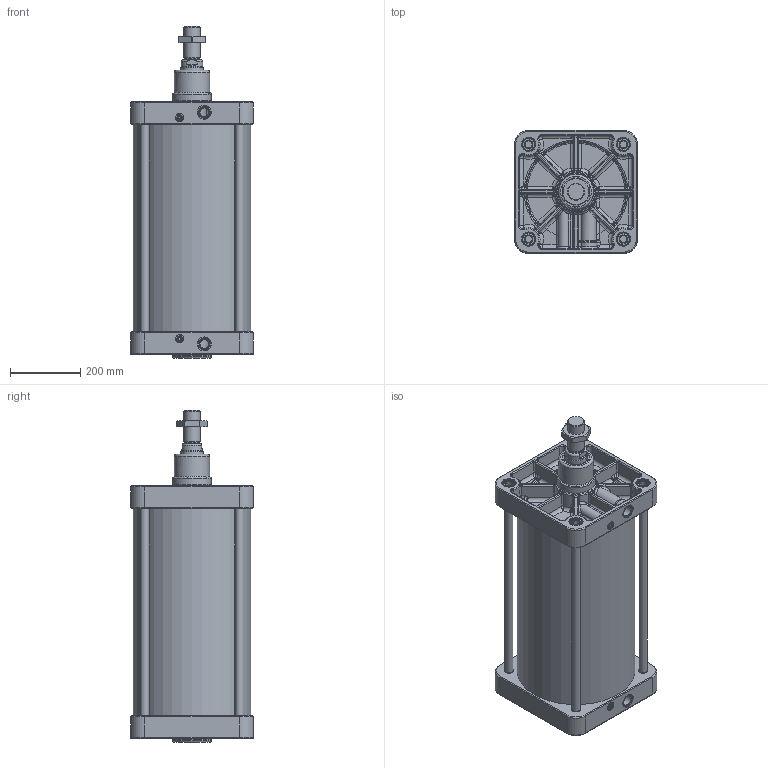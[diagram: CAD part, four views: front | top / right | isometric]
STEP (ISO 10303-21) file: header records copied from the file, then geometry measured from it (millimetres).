
FILE_DESCRIPTION(/* description */ (''),/* implementation_level */ '2;1');
FILE_NAME(/* name */ 'T:\Archivio Inventor\- 00 NUOVI STP PER SITO CON STELO CHE SI MUOVE\SERIE H - U\SERIE UDM\UDM320.---.GS.M\UDM320.500.GS.M.stp',/* time_stamp */ '2020-04-29T16:31:28+02:00',/* author */ ('carlo.corazza'),/* organization */ (''),/* preprocessor_version */ 'ST-DEVELOPER v16.5',/* originating_system */ 'Autodesk Inventor 2017',/* authorisation */ '');
FILE_SCHEMA (('AUTOMOTIVE_DESIGN { 1 0 10303 214 3 1 1 }'));
Length unit declared in the file: millimetre
Products named in the file (7): UDM320.500.GS.M; TP; STELO-500; TA; CORPO-500; TIRANTE-500; 29.2048.000.0
Assembly tree (9 placements, depth 2):
  UDM320.500.GS.M
    TP
    STELO-500
    TA
    TIRANTE-500  x4
    CORPO-500
    29.2048.000.0
Bounding box: 350 x 350 x 946 mm (x, y, z)
Volume: 17700114.8 mm3; surface area: 2754207.1 mm2
Topology: 9 solids, 16 shells, 1710 faces, 3937 edges, 2221 vertices
Faces by surface type: cylinder 439, bspline 432, plane 380, torus 252, cone 115, sphere 92
Full cylindrical faces by diameter (mm): 8 x2, 9 x1, 10 x1, 11 x2, 11.2 x2, 12 x2, 12.376 x1, 13.4 x4, 14 x2, 15.8 x4, 16 x6, 20.752 x8, 24 x10, 24.5 x8, 25 x6, 30.291 x2, 36 x9, 37 x8, 40 x2, 44.8 x1, 45.835 x1, 48 x1, 62 x1, 63 x1, 64 x1, 64.293 x1, 65.8 x1, 73 x1, 75 x3, 100 x1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
Entity records: 64917 total; most frequent: CARTESIAN_POINT 27888, DIRECTION 7314, ORIENTED_EDGE 7088, EDGE_CURVE 3544, AXIS2_PLACEMENT_3D 3113, VERTEX_POINT 2134, EDGE_LOOP 1966, FACE_OUTER_BOUND 1683
